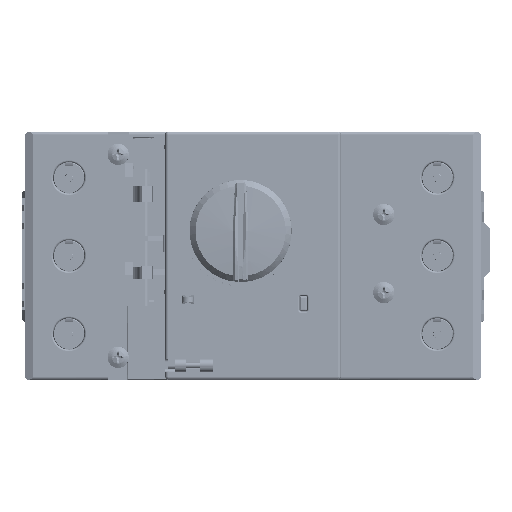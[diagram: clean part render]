
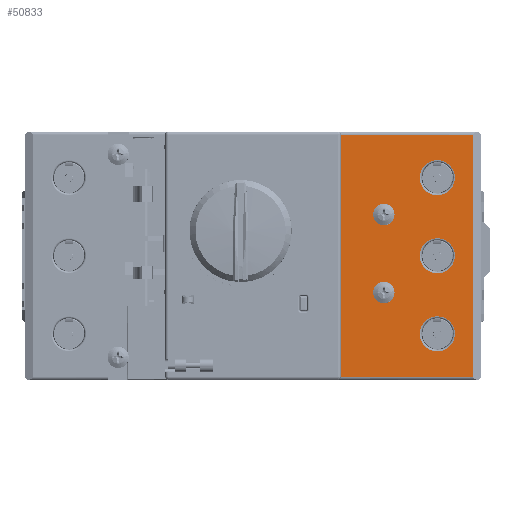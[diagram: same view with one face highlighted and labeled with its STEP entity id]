
A CAD part, top view. The second image highlights one B-rep face of the part: STEP entity #50833.
In plain terms, the highlighted planar face has unit normal (0, 0, 1).
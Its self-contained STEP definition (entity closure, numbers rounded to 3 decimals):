
#50833=ADVANCED_FACE('',(#60328,#60329,#60330,#60331,#60332,#60333),#56076,
 .F.);
#56076=PLANE('',#174959);
#58831=CIRCLE('',#173986,2.75);
#58836=CIRCLE('',#173999,2.75);
#58918=CIRCLE('',#174326,4.5);
#58919=CIRCLE('',#174328,4.5);
#58922=CIRCLE('',#174332,4.5);
#58923=CIRCLE('',#174334,4.5);
#58926=CIRCLE('',#174338,4.5);
#58927=CIRCLE('',#174340,4.5);
#60328=FACE_BOUND('',#66996,.T.);
#60329=FACE_BOUND('',#66997,.T.);
#60330=FACE_BOUND('',#66998,.T.);
#60331=FACE_BOUND('',#66999,.T.);
#60332=FACE_BOUND('',#67000,.T.);
#60333=FACE_BOUND('',#67001,.T.);
#66996=EDGE_LOOP('',(#101444,#101445,#101446,#101447));
#66997=EDGE_LOOP('',(#101448,#101449));
#66998=EDGE_LOOP('',(#101450,#101451));
#66999=EDGE_LOOP('',(#101452,#101453));
#67000=EDGE_LOOP('',(#101454));
#67001=EDGE_LOOP('',(#101455));
#101444=ORIENTED_EDGE('',*,*,#133597,.T.);
#101445=ORIENTED_EDGE('',*,*,#133714,.F.);
#101446=ORIENTED_EDGE('',*,*,#133813,.T.);
#101447=ORIENTED_EDGE('',*,*,#133769,.F.);
#101448=ORIENTED_EDGE('',*,*,#133497,.T.);
#101449=ORIENTED_EDGE('',*,*,#133496,.T.);
#101450=ORIENTED_EDGE('',*,*,#133501,.T.);
#101451=ORIENTED_EDGE('',*,*,#133500,.T.);
#101452=ORIENTED_EDGE('',*,*,#133505,.T.);
#101453=ORIENTED_EDGE('',*,*,#133504,.T.);
#101454=ORIENTED_EDGE('',*,*,#132742,.F.);
#101455=ORIENTED_EDGE('',*,*,#132670,.F.);
#115307=VERTEX_POINT('',#252412);
#115373=VERTEX_POINT('',#252558);
#115866=VERTEX_POINT('',#254987);
#115867=VERTEX_POINT('',#254989);
#115868=VERTEX_POINT('',#254995);
#115869=VERTEX_POINT('',#254997);
#115870=VERTEX_POINT('',#255003);
#115871=VERTEX_POINT('',#255005);
#115923=VERTEX_POINT('',#255197);
#115924=VERTEX_POINT('',#255199);
#115962=VERTEX_POINT('',#255444);
#115987=VERTEX_POINT('',#255556);
#132670=EDGE_CURVE('',#115307,#115307,#58831,.T.);
#132742=EDGE_CURVE('',#115373,#115373,#58836,.T.);
#133496=EDGE_CURVE('',#115866,#115867,#58918,.T.);
#133497=EDGE_CURVE('',#115867,#115866,#58919,.T.);
#133500=EDGE_CURVE('',#115868,#115869,#58922,.T.);
#133501=EDGE_CURVE('',#115869,#115868,#58923,.T.);
#133504=EDGE_CURVE('',#115870,#115871,#58926,.T.);
#133505=EDGE_CURVE('',#115871,#115870,#58927,.T.);
#133597=EDGE_CURVE('',#115924,#115923,#149444,.T.);
#133714=EDGE_CURVE('',#115962,#115923,#149538,.T.);
#133769=EDGE_CURVE('',#115924,#115987,#149585,.T.);
#133813=EDGE_CURVE('',#115962,#115987,#149622,.T.);
#149444=LINE('',#255198,#164456);
#149538=LINE('',#255445,#164550);
#149585=LINE('',#255555,#164597);
#149622=LINE('',#255638,#164634);
#164456=VECTOR('',#205371,1.);
#164550=VECTOR('',#205661,1.);
#164597=VECTOR('',#205786,1.);
#164634=VECTOR('',#205859,1.);
#173986=AXIS2_PLACEMENT_3D('',#252411,#203779,#203780);
#173999=AXIS2_PLACEMENT_3D('',#252557,#203872,#203873);
#174326=AXIS2_PLACEMENT_3D('',#254990,#205171,#205172);
#174328=AXIS2_PLACEMENT_3D('',#254992,#205175,#205176);
#174332=AXIS2_PLACEMENT_3D('',#254998,#205183,#205184);
#174334=AXIS2_PLACEMENT_3D('',#255000,#205187,#205188);
#174338=AXIS2_PLACEMENT_3D('',#255006,#205195,#205196);
#174340=AXIS2_PLACEMENT_3D('',#255008,#205199,#205200);
#174959=AXIS2_PLACEMENT_3D('',#257067,#207210,#207211);
#203779=DIRECTION('',(0.,0.,1.));
#203780=DIRECTION('',(-1.,0.,0.));
#203872=DIRECTION('',(0.,0.,1.));
#203873=DIRECTION('',(-1.,0.,0.));
#205171=DIRECTION('',(0.,0.,-1.));
#205172=DIRECTION('',(-1.,0.,0.));
#205175=DIRECTION('',(0.,0.,-1.));
#205176=DIRECTION('',(1.,0.,0.));
#205183=DIRECTION('',(0.,0.,-1.));
#205184=DIRECTION('',(-1.,0.,0.));
#205187=DIRECTION('',(0.,0.,-1.));
#205188=DIRECTION('',(1.,0.,0.));
#205195=DIRECTION('',(0.,0.,-1.));
#205196=DIRECTION('',(-1.,0.,0.));
#205199=DIRECTION('',(0.,0.,-1.));
#205200=DIRECTION('',(1.,0.,0.));
#205371=DIRECTION('',(0.,1.,0.));
#205661=DIRECTION('',(1.,0.,0.));
#205786=DIRECTION('',(-1.,0.,0.));
#205859=DIRECTION('',(0.,-1.,0.));
#207210=DIRECTION('',(0.,0.,-1.));
#207211=DIRECTION('',(-1.,0.,0.));
#252411=CARTESIAN_POINT('',(92.7,22.4,28.1));
#252412=CARTESIAN_POINT('',(89.95,22.4,28.1));
#252557=CARTESIAN_POINT('',(92.7,42.4,28.1));
#252558=CARTESIAN_POINT('',(89.95,42.4,28.1));
#254987=CARTESIAN_POINT('',(101.9,11.8,28.1));
#254989=CARTESIAN_POINT('',(110.9,11.8,28.1));
#254990=CARTESIAN_POINT('',(106.4,11.8,28.1));
#254992=CARTESIAN_POINT('',(106.4,11.8,28.1));
#254995=CARTESIAN_POINT('',(101.9,31.8,28.1));
#254997=CARTESIAN_POINT('',(110.9,31.8,28.1));
#254998=CARTESIAN_POINT('',(106.4,31.8,28.1));
#255000=CARTESIAN_POINT('',(106.4,31.8,28.1));
#255003=CARTESIAN_POINT('',(101.9,51.8,28.1));
#255005=CARTESIAN_POINT('',(110.9,51.8,28.1));
#255006=CARTESIAN_POINT('',(106.4,51.8,28.1));
#255008=CARTESIAN_POINT('',(106.4,51.8,28.1));
#255197=CARTESIAN_POINT('',(115.6,62.8,28.1));
#255198=CARTESIAN_POINT('',(115.6,0.8,28.1));
#255199=CARTESIAN_POINT('',(115.6,0.8,28.1));
#255444=CARTESIAN_POINT('',(81.7,62.8,28.1));
#255445=CARTESIAN_POINT('',(81.7,62.8,28.1));
#255555=CARTESIAN_POINT('',(115.6,0.8,28.1));
#255556=CARTESIAN_POINT('',(81.7,0.8,28.1));
#255638=CARTESIAN_POINT('',(81.7,62.8,28.1));
#257067=CARTESIAN_POINT('',(59.2,31.8,28.1));
